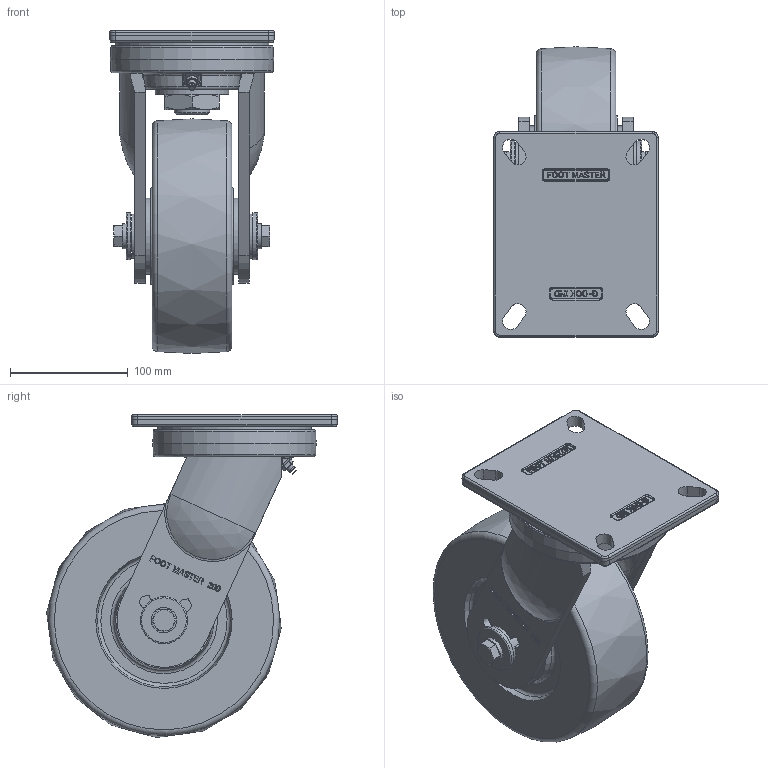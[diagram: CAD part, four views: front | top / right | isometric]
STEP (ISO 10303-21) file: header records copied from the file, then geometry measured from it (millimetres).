
FILE_DESCRIPTION(/* description */ (''),/* implementation_level */ '2;1');
FILE_NAME(/* name */ 'Y:\1.기술연구소\2.연구개발 진행중\133.고하중캐스터 브레이크 타입 변경건_2025.11.03\1.도면\4.홈페이지용 도면\01. 3D\GXT-200 SERIES\GXT-200-STEP\GXT-200-ASF-HUD.stp',/* time_stamp */ '2026-07-21T18:35:00+09:00',/* author */ ('장용하'),/* organization */ (''),/* preprocessor_version */ 'ST-DEVELOPER v18.1',/* originating_system */ 'Autodesk Inventor 2021',/* authorisation */ '');
FILE_SCHEMA (('CONFIG_CONTROL_DESIGN'));
Length unit declared in the file: millimetre
Products named in the file (1): GXT-200-ASF-HUD
Bounding box: 140 x 247.28 x 274.78 mm (x, y, z)
Volume: 3100802.2 mm3; surface area: 246138.2 mm2
Topology: 1 solids, 1 shells, 1005 faces, 2704 edges, 1781 vertices
Faces by surface type: plane 470, bspline 380, cylinder 96, cone 31, torus 24, sphere 4
Full cylindrical faces by diameter (mm): 12 x2, 13 x2, 21.5 x2, 30 x1, 37.448 x2, 40 x2, 62.5 x1, 65 x2, 131.086 x1
Entity records: 32957 total; most frequent: CARTESIAN_POINT 10096, ORIENTED_EDGE 5404, DIRECTION 3533, EDGE_CURVE 2702, VERTEX_POINT 1781, LINE 1523, VECTOR 1523, EDGE_LOOP 1107
